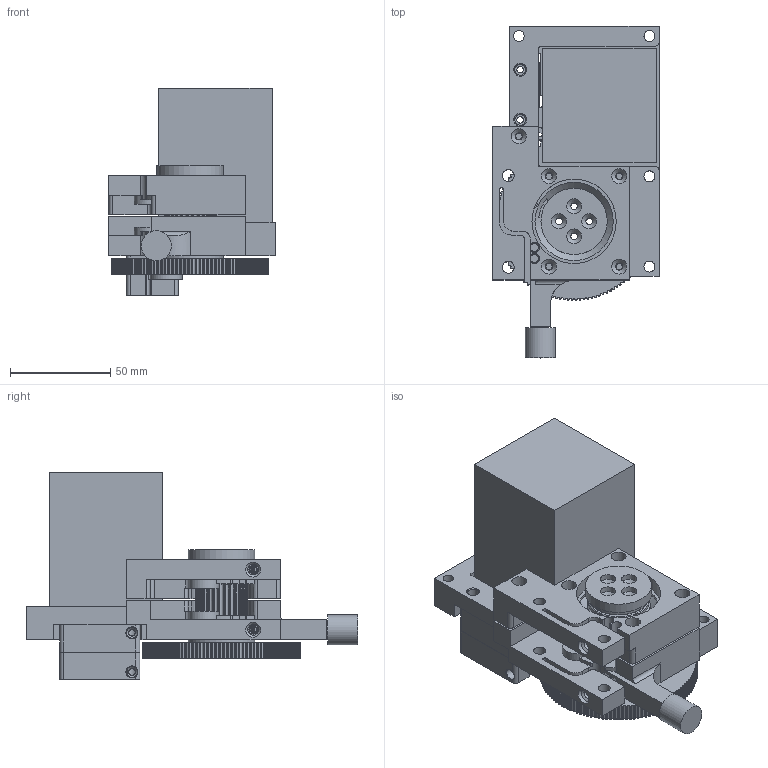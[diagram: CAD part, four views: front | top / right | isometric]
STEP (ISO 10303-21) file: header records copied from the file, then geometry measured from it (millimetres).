
FILE_DESCRIPTION(/* description */ (''),/* implementation_level */ '2;1');
FILE_NAME(/* name */ 'G:/Dropbox/CBA/machines/displacementExercise/cad/rct-dex-hearth v35.step',/* time_stamp */ '2019-10-15T11:09:48-04:00',/* author */ (''),/* organization */ (''),/* preprocessor_version */ 'ST-DEVELOPER v18',/* originating_system */ 'Autodesk Translation Framework v8.6.0.1094',/* authorisation */ '');
FILE_SCHEMA (('AUTOMOTIVE_DESIGN { 1 0 10303 214 3 1 1 }'));
Length unit declared in the file: millimetre
Products named in the file (2): rct-dex-hearth; rct-lb-gt2-stray-idler
Assembly tree (1 placements, depth 2):
  rct-dex-hearth
    rct-lb-gt2-stray-idler
Bounding box: 82.9 x 165.4 x 103.6 mm (x, y, z)
Volume: 445926.6 mm3; surface area: 107740 mm2
Topology: 11 solids, 11 shells, 1408 faces, 4041 edges, 2682 vertices
Faces by surface type: cylinder 1131, plane 172, cone 105
Full cylindrical faces by diameter (mm): 3.15 x12, 3.25 x20, 3.8 x1, 4 x1, 4.25 x2, 5.4 x24, 6 x9, 7.25 x3, 7.4 x14, 7.5 x17, 7.9 x4, 9 x4, 15 x1, 16 x2, 30 x4, 31.5 x2, 33 x2, 39 x2, 42 x2
Entity records: 49480 total; most frequent: CARTESIAN_POINT 10772, DIRECTION 8734, ORIENTED_EDGE 8082, EDGE_CURVE 4041, AXIS2_PLACEMENT_3D 3588, VERTEX_POINT 2682, CIRCLE 2177, LINE 1558
